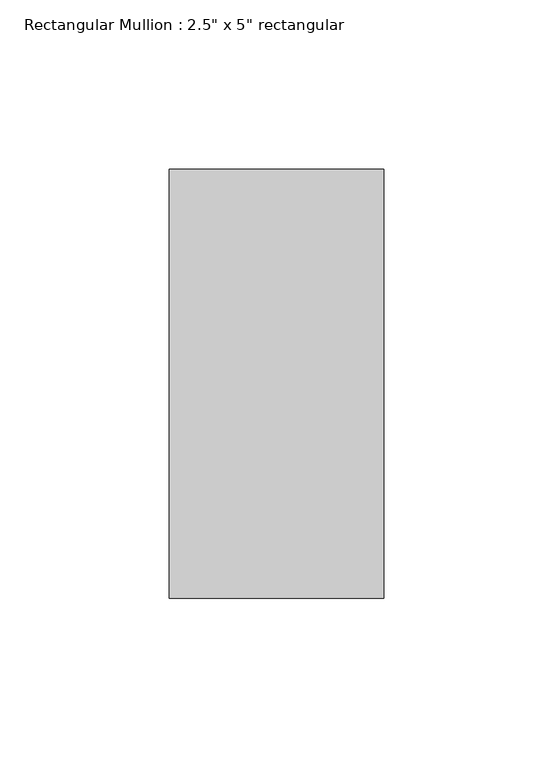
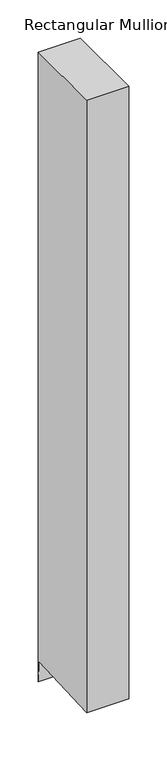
"""IFC4 building model written with IfcOpenShell, lengths in millimetres: member geometry."""

from ifc_helpers import new_model, si_unit, origin, place, context, project, spatial, faceted_brep, source, transform, mapped, element, save


def member_ce8d5a40(model_context):
    return source(origin(), model_context, "Body", "Brep", [
        faceted_brep([(31.75, 63.5, 0.0), (-31.75, 63.5, 0.0), (-31.75, -63.5, 0.0), (31.75, -63.5, 0.0), (31.75, 63.5, -1006.4222437), (0.0, 63.5, -1006.4222437), (-31.75, 63.5, -1006.4222437), (-31.75, 62.043738, -973.3086309), (-31.75, -63.5, -978.8297614), (0.0, -63.5, -978.8297614), (31.75, -63.5, -978.8297614), (31.75, 62.043738, -973.3086309), (0.0, 62.043738, -973.3086309)], [[[0, 1, 2, 3]], [[1, 0, 4, 5, 6]], [[2, 1, 6, 7, 8]], [[3, 2, 8, 9, 10]], [[0, 3, 10, 11, 4]], [[4, 11, 12, 5]], [[11, 10, 9, 12]], [[9, 8, 7, 12]], [[7, 6, 5, 12]]]),
    ])


if __name__ == "__main__":
    model = new_model("IFC4")
    model_context = context("Model", 3, world=origin())
    ifc_project = project(units=[si_unit("LENGTHUNIT", "METRE", prefix="MILLI")], contexts=[model_context])
    site = spatial("IfcSite", under=ifc_project)
    building = spatial("IfcBuilding", under=site)
    placement = place(None, origin())
    member_shape = member_ce8d5a40(model_context)
    element("IfcMember", 1, ObjectType="Rectangular Mullion : 2.5\" x 5\" rectangular", at=placement, inside=building, context=model_context, shape_type="MappedRepresentation", body=[
        mapped(member_shape, transform((0.0, 0.0, 0.0), x_axis=(1.0, 0.0, 0.0), y_axis=(0.0, 1.0, 0.0), z_axis=(0.0, 0.0, 1.0))),
    ])
    save(model, "model.ifc")
